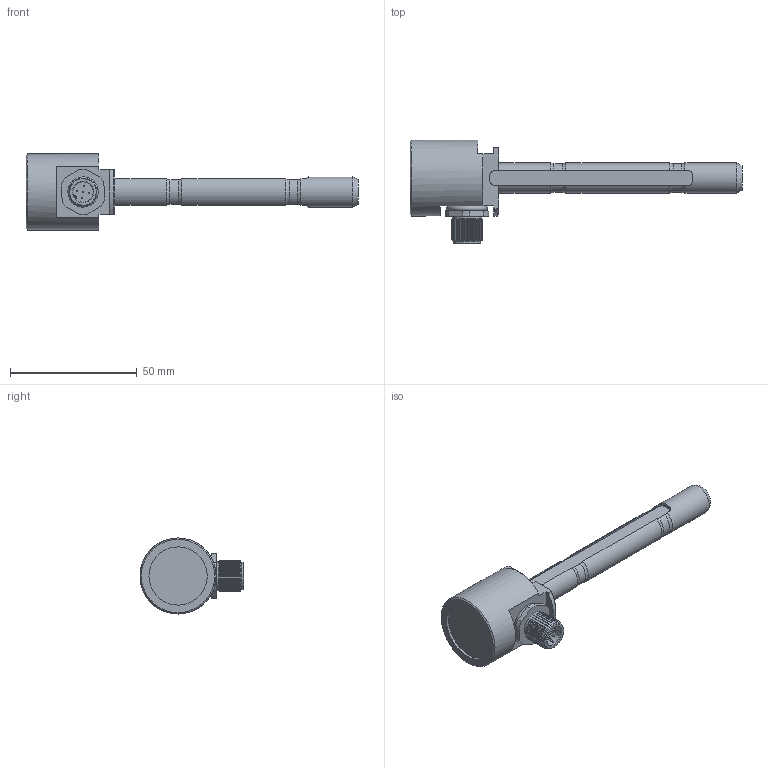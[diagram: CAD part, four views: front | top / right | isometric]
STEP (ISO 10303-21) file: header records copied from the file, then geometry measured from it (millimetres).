
FILE_DESCRIPTION(/* description */ ('Alibre Inc.'),/* implementation_level */ '2;1');
FILE_NAME(/* name */ 'export-51DD36A3-B854-4013-8509-1C1B06321FE6',/* time_stamp */ '2023-01-11T14:14:46+01:00',/* author */ (''),/* organization */ (''),/* preprocessor_version */ 'ST-DEVELOPER v17',/* originating_system */ 'Alibre',/* authorisation */ '');
FILE_SCHEMA (('CONFIG_CONTROL_DESIGN'));
Length unit declared in the file: millimetre
Bounding box: 131 x 41 x 30 mm (x, y, z)
Volume: 159373.4 mm3; surface area: 162467.2 mm2
Topology: 7 solids, 8 shells, 220 faces, 499 edges, 301 vertices
Faces by surface type: cone 74, cylinder 72, plane 64, torus 10
Full cylindrical faces by diameter (mm): 0.5 x10, 8 x2, 10 x1, 11 x1, 11.5 x1, 12 x22, 13 x2, 14.5 x1, 23 x1, 30 x1
Entity records: 5383 total; most frequent: CARTESIAN_POINT 1131, ORIENTED_EDGE 792, DIRECTION 700, EDGE_CURVE 390, EDGE_LOOP 332, FACE_BOUND 332, AXIS2_PLACEMENT_3D 315, VERTEX_POINT 286
